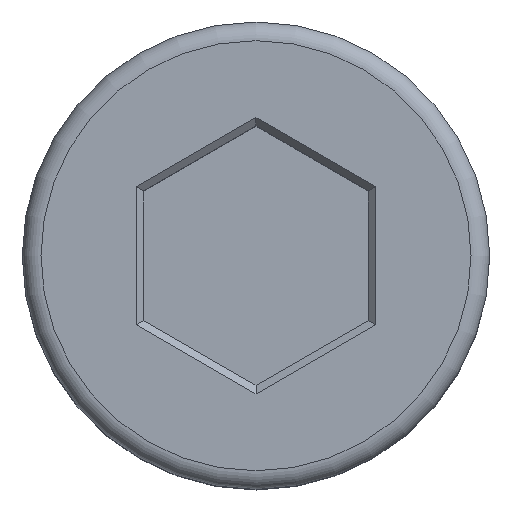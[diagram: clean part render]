
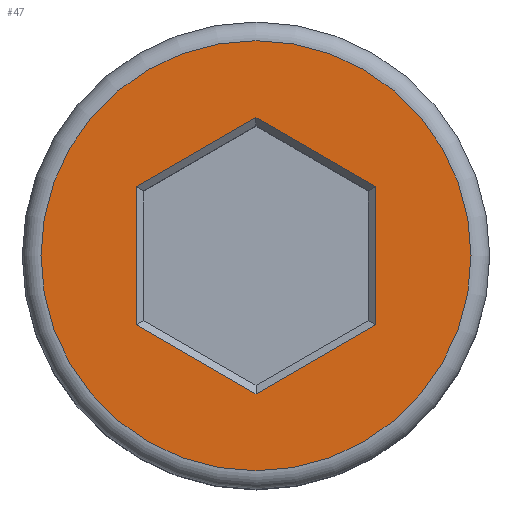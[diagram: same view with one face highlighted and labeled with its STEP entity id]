
A CAD part, top view. The second image highlights one B-rep face of the part: STEP entity #47.
In plain terms, the highlighted planar face has unit normal (0, 0, 1).
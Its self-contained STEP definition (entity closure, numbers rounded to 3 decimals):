
#47 = ADVANCED_FACE( '', ( #110, #111 ), #112, .F. );
#110 = FACE_BOUND( '', #195, .T. );
#111 = FACE_OUTER_BOUND( '', #196, .T. );
#112 = PLANE( '', #197 );
#195 = EDGE_LOOP( '', ( #274, #275, #276, #277, #278, #279 ) );
#196 = EDGE_LOOP( '', ( #280 ) );
#197 = AXIS2_PLACEMENT_3D( '', #281, #282, #283 );
#274 = ORIENTED_EDGE( '', *, *, #444, .T. );
#275 = ORIENTED_EDGE( '', *, *, #445, .T. );
#276 = ORIENTED_EDGE( '', *, *, #446, .T. );
#277 = ORIENTED_EDGE( '', *, *, #447, .T. );
#278 = ORIENTED_EDGE( '', *, *, #448, .T. );
#279 = ORIENTED_EDGE( '', *, *, #449, .T. );
#280 = ORIENTED_EDGE( '', *, *, #450, .T. );
#281 = CARTESIAN_POINT( '', ( 0., 0., 47. ) );
#282 = DIRECTION( '', ( 0., 0., -1. ) );
#283 = DIRECTION( '', ( -1., 0., 0. ) );
#444 = EDGE_CURVE( '', #506, #507, #508, .T. );
#445 = EDGE_CURVE( '', #507, #509, #510, .T. );
#446 = EDGE_CURVE( '', #509, #511, #512, .T. );
#447 = EDGE_CURVE( '', #511, #513, #514, .T. );
#448 = EDGE_CURVE( '', #513, #515, #516, .T. );
#449 = EDGE_CURVE( '', #515, #506, #517, .T. );
#450 = EDGE_CURVE( '', #518, #518, #519, .F. );
#506 = VERTEX_POINT( '', #595 );
#507 = VERTEX_POINT( '', #596 );
#508 = LINE( '', #597, #598 );
#509 = VERTEX_POINT( '', #599 );
#510 = LINE( '', #600, #601 );
#511 = VERTEX_POINT( '', #602 );
#512 = LINE( '', #603, #604 );
#513 = VERTEX_POINT( '', #605 );
#514 = LINE( '', #606, #607 );
#515 = VERTEX_POINT( '', #608 );
#516 = LINE( '', #609, #610 );
#517 = LINE( '', #611, #612 );
#518 = VERTEX_POINT( '', #613 );
#519 = CIRCLE( '', #614, 5.75 );
#595 = CARTESIAN_POINT( '', ( 0., -3.695, 47. ) );
#596 = CARTESIAN_POINT( '', ( -3.2, -1.848, 47. ) );
#597 = CARTESIAN_POINT( '', ( -3.1, -1.905, 47. ) );
#598 = VECTOR( '', #713, 1000. );
#599 = CARTESIAN_POINT( '', ( -3.2, 1.848, 47. ) );
#600 = CARTESIAN_POINT( '', ( -3.2, 1.732, 47. ) );
#601 = VECTOR( '', #714, 1000. );
#602 = CARTESIAN_POINT( '', ( 0., 3.695, 47. ) );
#603 = CARTESIAN_POINT( '', ( -0.1, 3.637, 47. ) );
#604 = VECTOR( '', #715, 1000. );
#605 = CARTESIAN_POINT( '', ( 3.2, 1.848, 47. ) );
#606 = CARTESIAN_POINT( '', ( 3.1, 1.905, 47. ) );
#607 = VECTOR( '', #716, 1000. );
#608 = CARTESIAN_POINT( '', ( 3.2, -1.848, 47. ) );
#609 = CARTESIAN_POINT( '', ( 3.2, -1.732, 47. ) );
#610 = VECTOR( '', #717, 1000. );
#611 = CARTESIAN_POINT( '', ( 0.1, -3.637, 47. ) );
#612 = VECTOR( '', #718, 1000. );
#613 = CARTESIAN_POINT( '', ( -5.75, 0., 47. ) );
#614 = AXIS2_PLACEMENT_3D( '', #719, #720, #721 );
#713 = DIRECTION( '', ( -0.866, 0.5, 0. ) );
#714 = DIRECTION( '', ( 0., 1., 0. ) );
#715 = DIRECTION( '', ( 0.866, 0.5, 0. ) );
#716 = DIRECTION( '', ( 0.866, -0.5, 0. ) );
#717 = DIRECTION( '', ( 0., -1., 0. ) );
#718 = DIRECTION( '', ( -0.866, -0.5, 0. ) );
#719 = CARTESIAN_POINT( '', ( 0., 0., 47. ) );
#720 = DIRECTION( '', ( 0., 0., -1. ) );
#721 = DIRECTION( '', ( -1., 0., 0. ) );
